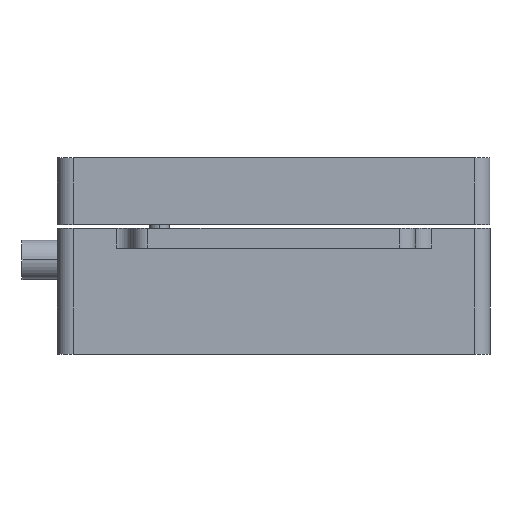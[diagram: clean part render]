
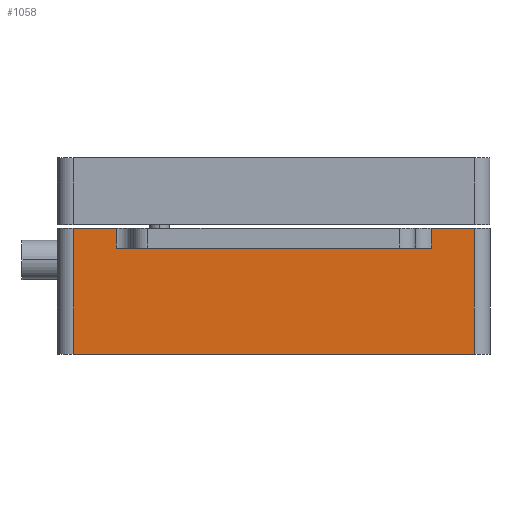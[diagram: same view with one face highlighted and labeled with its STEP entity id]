
A CAD part, left-side view. The second image highlights one B-rep face of the part: STEP entity #1058.
In plain terms, the highlighted planar face has unit normal (-1, 0, 0).
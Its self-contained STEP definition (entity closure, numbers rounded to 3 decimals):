
#47 = VECTOR ( 'NONE', #1757, 1000. ) ;
#202 = LINE ( 'NONE', #207, #4055 ) ;
#207 = CARTESIAN_POINT ( 'NONE',  ( -27.5, 27.5, 16. ) ) ;
#227 = EDGE_CURVE ( 'NONE', #1068, #2955, #2213, .T. ) ;
#246 = CARTESIAN_POINT ( 'NONE',  ( -27.5, 25.5, 16. ) ) ;
#287 = DIRECTION ( 'NONE',  ( 1., 0., 0. ) ) ;
#345 = EDGE_CURVE ( 'NONE', #3223, #1417, #202, .T. ) ;
#438 = CARTESIAN_POINT ( 'NONE',  ( -27.5, 18., 13.5 ) ) ;
#449 = DIRECTION ( 'NONE',  ( 0., 0., 1. ) ) ;
#584 = VECTOR ( 'NONE', #715, 1000. ) ;
#637 = LINE ( 'NONE', #3865, #2378 ) ;
#672 = CARTESIAN_POINT ( 'NONE',  ( -27.5, -20., 13.5 ) ) ;
#715 = DIRECTION ( 'NONE',  ( 0., 0., -1. ) ) ;
#802 = FACE_OUTER_BOUND ( 'NONE', #2471, .T. ) ;
#874 = DIRECTION ( 'NONE',  ( 0., -1., 0. ) ) ;
#893 = EDGE_CURVE ( 'NONE', #1214, #1068, #1872, .T. ) ;
#998 = EDGE_CURVE ( 'NONE', #3626, #4062, #637, .T. ) ;
#999 = VECTOR ( 'NONE', #1797, 1000. ) ;
#1058 = ADVANCED_FACE ( 'NONE', ( #802 ), #2849, .F. ) ;
#1068 = VERTEX_POINT ( 'NONE', #1588 ) ;
#1071 = CARTESIAN_POINT ( 'NONE',  ( -27.5, -20., 16. ) ) ;
#1122 = EDGE_CURVE ( 'NONE', #2615, #3626, #2335, .T. ) ;
#1214 = VERTEX_POINT ( 'NONE', #672 ) ;
#1224 = EDGE_CURVE ( 'NONE', #4062, #1417, #1466, .T. ) ;
#1360 = CARTESIAN_POINT ( 'NONE',  ( -27.5, -25.5, 16. ) ) ;
#1366 = VECTOR ( 'NONE', #3968, 1000. ) ;
#1417 = VERTEX_POINT ( 'NONE', #1360 ) ;
#1466 = LINE ( 'NONE', #2645, #1366 ) ;
#1588 = CARTESIAN_POINT ( 'NONE',  ( -27.5, 20., 13.5 ) ) ;
#1732 = ORIENTED_EDGE ( 'NONE', *, *, #3281, .F. ) ;
#1757 = DIRECTION ( 'NONE',  ( 0., -1., 0. ) ) ;
#1774 = ORIENTED_EDGE ( 'NONE', *, *, #3764, .T. ) ;
#1797 = DIRECTION ( 'NONE',  ( 0., 1., 0. ) ) ;
#1829 = CARTESIAN_POINT ( 'NONE',  ( -27.5, 27.5, 16. ) ) ;
#1841 = ORIENTED_EDGE ( 'NONE', *, *, #227, .T. ) ;
#1872 = LINE ( 'NONE', #438, #999 ) ;
#1991 = LINE ( 'NONE', #3752, #47 ) ;
#2029 = CARTESIAN_POINT ( 'NONE',  ( -27.5, -20., 16. ) ) ;
#2144 = CARTESIAN_POINT ( 'NONE',  ( -27.5, 20., 16. ) ) ;
#2213 = LINE ( 'NONE', #2144, #3124 ) ;
#2225 = CARTESIAN_POINT ( 'NONE',  ( -27.5, 25.5, 0. ) ) ;
#2335 = LINE ( 'NONE', #3559, #3893 ) ;
#2349 = AXIS2_PLACEMENT_3D ( 'NONE', #1829, #287, #3898 ) ;
#2378 = VECTOR ( 'NONE', #874, 1000. ) ;
#2416 = ORIENTED_EDGE ( 'NONE', *, *, #1224, .T. ) ;
#2471 = EDGE_LOOP ( 'NONE', ( #3527, #1774, #3023, #1841, #1732, #3874, #3700, #2416 ) ) ;
#2509 = CARTESIAN_POINT ( 'NONE',  ( -27.5, -25.5, 0. ) ) ;
#2615 = VERTEX_POINT ( 'NONE', #246 ) ;
#2645 = CARTESIAN_POINT ( 'NONE',  ( -27.5, -25.5, 16. ) ) ;
#2849 = PLANE ( 'NONE',  #2349 ) ;
#2906 = DIRECTION ( 'NONE',  ( 0., 0., -1. ) ) ;
#2925 = LINE ( 'NONE', #2029, #584 ) ;
#2955 = VERTEX_POINT ( 'NONE', #3157 ) ;
#3023 = ORIENTED_EDGE ( 'NONE', *, *, #893, .T. ) ;
#3124 = VECTOR ( 'NONE', #449, 1000. ) ;
#3157 = CARTESIAN_POINT ( 'NONE',  ( -27.5, 20., 16. ) ) ;
#3223 = VERTEX_POINT ( 'NONE', #1071 ) ;
#3281 = EDGE_CURVE ( 'NONE', #2615, #2955, #1991, .T. ) ;
#3516 = DIRECTION ( 'NONE',  ( 0., -1., 0. ) ) ;
#3527 = ORIENTED_EDGE ( 'NONE', *, *, #345, .F. ) ;
#3559 = CARTESIAN_POINT ( 'NONE',  ( -27.5, 25.5, 16. ) ) ;
#3626 = VERTEX_POINT ( 'NONE', #2225 ) ;
#3700 = ORIENTED_EDGE ( 'NONE', *, *, #998, .T. ) ;
#3752 = CARTESIAN_POINT ( 'NONE',  ( -27.5, 27.5, 16. ) ) ;
#3764 = EDGE_CURVE ( 'NONE', #3223, #1214, #2925, .T. ) ;
#3865 = CARTESIAN_POINT ( 'NONE',  ( -27.5, 27.5, 0. ) ) ;
#3874 = ORIENTED_EDGE ( 'NONE', *, *, #1122, .T. ) ;
#3893 = VECTOR ( 'NONE', #2906, 1000. ) ;
#3898 = DIRECTION ( 'NONE',  ( 0., 1., 0. ) ) ;
#3968 = DIRECTION ( 'NONE',  ( 0., 0., 1. ) ) ;
#4055 = VECTOR ( 'NONE', #3516, 1000. ) ;
#4062 = VERTEX_POINT ( 'NONE', #2509 ) ;
